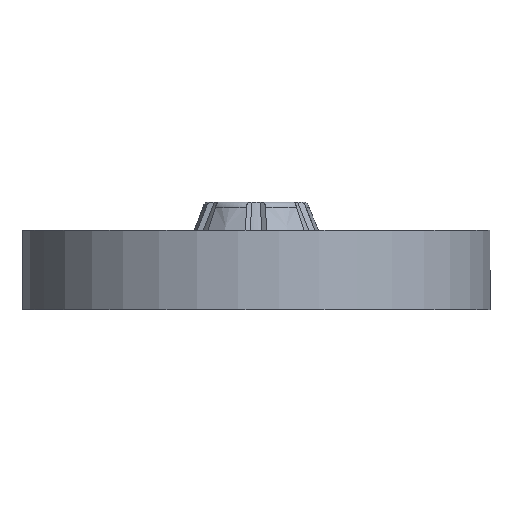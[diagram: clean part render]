
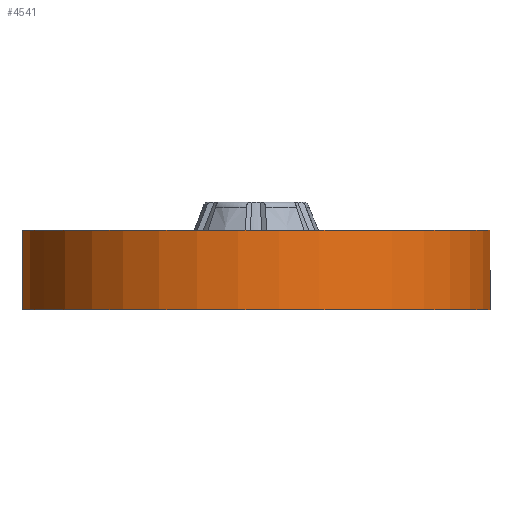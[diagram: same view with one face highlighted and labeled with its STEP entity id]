
A CAD part, front view. The second image highlights one B-rep face of the part: STEP entity #4541.
In plain terms, the highlighted cylindrical face has radius 39.789 mm (diameter 79.577 mm), a partial arc.
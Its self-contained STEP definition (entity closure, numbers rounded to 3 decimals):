
#227 = AXIS2_PLACEMENT_3D ( 'NONE', #3192, #4218, #3115 ) ;
#278 = CARTESIAN_POINT ( 'NONE',  ( 39.602, 3.854, 5.7 ) ) ;
#559 = DIRECTION ( 'NONE',  ( 0., 0., 1. ) ) ;
#736 = AXIS2_PLACEMENT_3D ( 'NONE', #2605, #1037, #3622 ) ;
#798 = CIRCLE ( 'NONE', #227, 39.789 ) ;
#964 = DIRECTION ( 'NONE',  ( 0., 0., 1. ) ) ;
#1037 = DIRECTION ( 'NONE',  ( 0., 0., 1. ) ) ;
#1163 = DIRECTION ( 'NONE',  ( 0.995, 0.097, 0. ) ) ;
#1475 = ORIENTED_EDGE ( 'NONE', *, *, #2351, .F. ) ;
#1668 = DIRECTION ( 'NONE',  ( 0., 0., 1. ) ) ;
#1670 = VERTEX_POINT ( 'NONE', #6513 ) ;
#1885 = ORIENTED_EDGE ( 'NONE', *, *, #6192, .T. ) ;
#1937 = CARTESIAN_POINT ( 'NONE',  ( -39.602, -3.854, 5.7 ) ) ;
#2054 = VERTEX_POINT ( 'NONE', #5839 ) ;
#2205 = VERTEX_POINT ( 'NONE', #278 ) ;
#2351 = EDGE_CURVE ( 'NONE', #1670, #2054, #798, .T. ) ;
#2605 = CARTESIAN_POINT ( 'NONE',  ( 0., 0., 5.7 ) ) ;
#2702 = CARTESIAN_POINT ( 'NONE',  ( 39.602, 3.854, 5.75 ) ) ;
#3115 = DIRECTION ( 'NONE',  ( -1., 0., 0. ) ) ;
#3192 = CARTESIAN_POINT ( 'NONE',  ( 0., 0., -7.7 ) ) ;
#3258 = EDGE_CURVE ( 'NONE', #2054, #6491, #6461, .T. ) ;
#3568 = EDGE_CURVE ( 'NONE', #6491, #2205, #4566, .T. ) ;
#3580 = AXIS2_PLACEMENT_3D ( 'NONE', #5773, #559, #1163 ) ;
#3598 = VECTOR ( 'NONE', #1668, 1000. ) ;
#3622 = DIRECTION ( 'NONE',  ( 1., 0., 0. ) ) ;
#4218 = DIRECTION ( 'NONE',  ( 0., 0., -1. ) ) ;
#4259 = EDGE_LOOP ( 'NONE', ( #4578, #1475, #1885, #5662 ) ) ;
#4422 = LINE ( 'NONE', #2702, #3598 ) ;
#4541 = ADVANCED_FACE ( 'NONE', ( #6445 ), #5938, .T. ) ;
#4566 = CIRCLE ( 'NONE', #736, 39.789 ) ;
#4578 = ORIENTED_EDGE ( 'NONE', *, *, #3258, .F. ) ;
#5065 = VECTOR ( 'NONE', #964, 1000. ) ;
#5662 = ORIENTED_EDGE ( 'NONE', *, *, #3568, .F. ) ;
#5773 = CARTESIAN_POINT ( 'NONE',  ( 0., 0., 5.75 ) ) ;
#5839 = CARTESIAN_POINT ( 'NONE',  ( -39.602, -3.854, -7.7 ) ) ;
#5938 = CYLINDRICAL_SURFACE ( 'NONE', #3580, 39.789 ) ;
#6192 = EDGE_CURVE ( 'NONE', #1670, #2205, #4422, .T. ) ;
#6445 = FACE_OUTER_BOUND ( 'NONE', #4259, .T. ) ;
#6461 = LINE ( 'NONE', #6772, #5065 ) ;
#6491 = VERTEX_POINT ( 'NONE', #1937 ) ;
#6513 = CARTESIAN_POINT ( 'NONE',  ( 39.602, 3.854, -7.7 ) ) ;
#6772 = CARTESIAN_POINT ( 'NONE',  ( -39.602, -3.854, 5.75 ) ) ;
